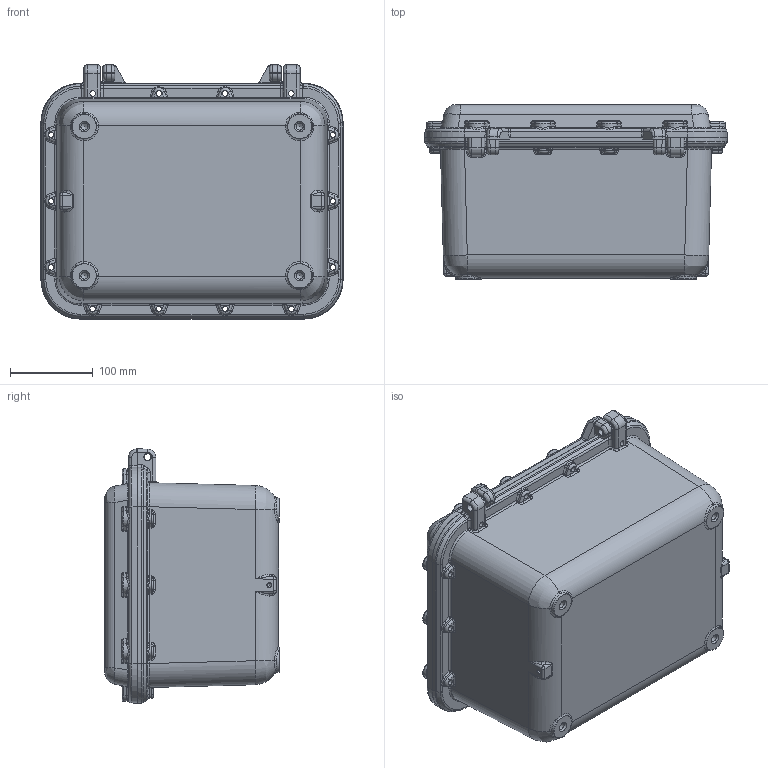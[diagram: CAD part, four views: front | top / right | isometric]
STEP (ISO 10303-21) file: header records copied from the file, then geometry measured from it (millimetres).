
FILE_DESCRIPTION(('STEP AP203'), '1');
FILE_NAME('Ñáîðêà_Êîðïóñ Â06-01', '', ('UNSPECIFIED'), ('UNSPECIFIED'), 'C3D Converter', 'C3D Toolkit', '');
FILE_SCHEMA(('CONFIG_CONTROL_DESIGN'));
Length unit declared in the file: millimetre
Products named in the file (3): В06-01; В06-02
Assembly tree (2 placements, depth 2):
  (unnamed)
    В06-01
    В06-02
Bounding box: 365 x 211 x 307.05 mm (x, y, z)
Volume: 5694543.8 mm3; surface area: 801886.7 mm2
Topology: 2 solids, 2 shells, 1948 faces, 4943 edges, 3011 vertices
Faces by surface type: cone 694, cylinder 502, plane 323, bspline 304, torus 125
Full cylindrical faces by diameter (mm): 4.917 x8, 6.647 x14, 8 x2, 8.376 x4, 9 x30, 15 x14
Entity records: 122345 total; most frequent: CARTESIAN_POINT 61411, ORIENTED_EDGE 9562, DIRECTION 9544, EDGE_CURVE 4781, AXIS2_PLACEMENT_3D 3907, VERTEX_POINT 2999, CIRCLE 2260, EDGE_LOOP 2174
